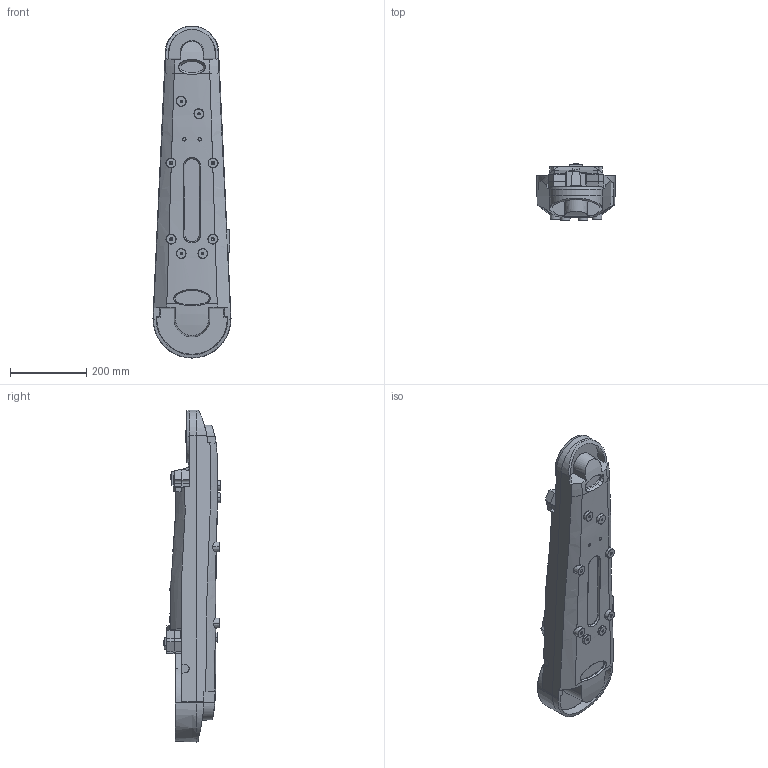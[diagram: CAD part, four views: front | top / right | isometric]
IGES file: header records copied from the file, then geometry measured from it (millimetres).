
Start section: SolidWorks IGES file using analytic representation for surfaces
Global section: file name: C:\Users\CNVIWU6\Desktop\Customer CAD\New model\Base\IRB2600_TYPEC_12kg-165_IRC5_rev00_PARASOLID_j\IRB2600-TYPEC_12kg-165_LINK2_CAD_rev01.IGS; native system: SolidWorks 2016; preprocessor: SolidWorks 2016; author: CNVIWU6; date: 180626.091456; units: millimetre
Bounding box: 205 x 150 x 872.5 mm (x, y, z)
Surface area: 538172.2 mm2 (no closed solid volume)
Topology: 0 solids, 0 shells, 439 faces, 6322 edges, 6300 vertices
Faces by surface type: bspline 265, revolution 174
